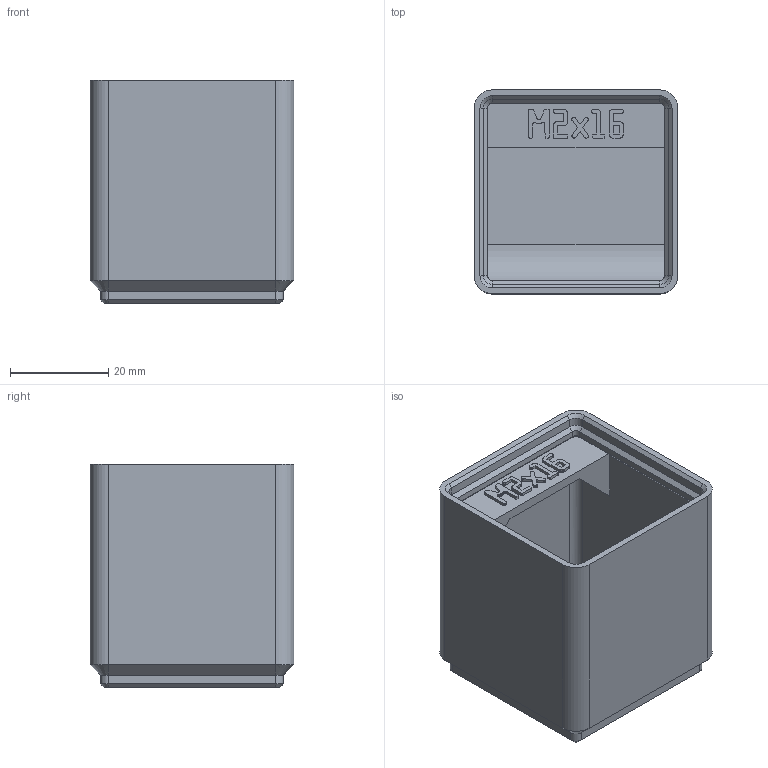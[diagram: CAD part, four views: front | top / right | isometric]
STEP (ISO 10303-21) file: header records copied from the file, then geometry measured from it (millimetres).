
FILE_DESCRIPTION(('Open CASCADE Model'),'2;1');
FILE_NAME('Open CASCADE Shape Model','2026-11-03T10:35:50',('Author'),( 'Open CASCADE'),'Open CASCADE STEP processor 8.0','build123d', 'Unknown');
FILE_SCHEMA(('AUTOMOTIVE_DESIGN { 1 0 10303 214 1 1 1 1 }'));
Length unit declared in the file: millimetre
Products named in the file (1): COMPOUND
Bounding box: 41.5 x 41.5 x 45.55 mm (x, y, z)
Volume: 24944.2 mm3; surface area: 16509.2 mm2
Topology: 1 solids, 1 shells, 632 faces, 1809 edges, 1186 vertices
Faces by surface type: plane 591, cylinder 21, cone 20
Entity records: 42691 total; most frequent: CARTESIAN_POINT 8862, DIRECTION 5438, LINE 4057, VECTOR 4057, ORIENTED_EDGE 3618, PCURVE 3618, DEFINITIONAL_REPRESENTATION 3618, EDGE_CURVE 1809
